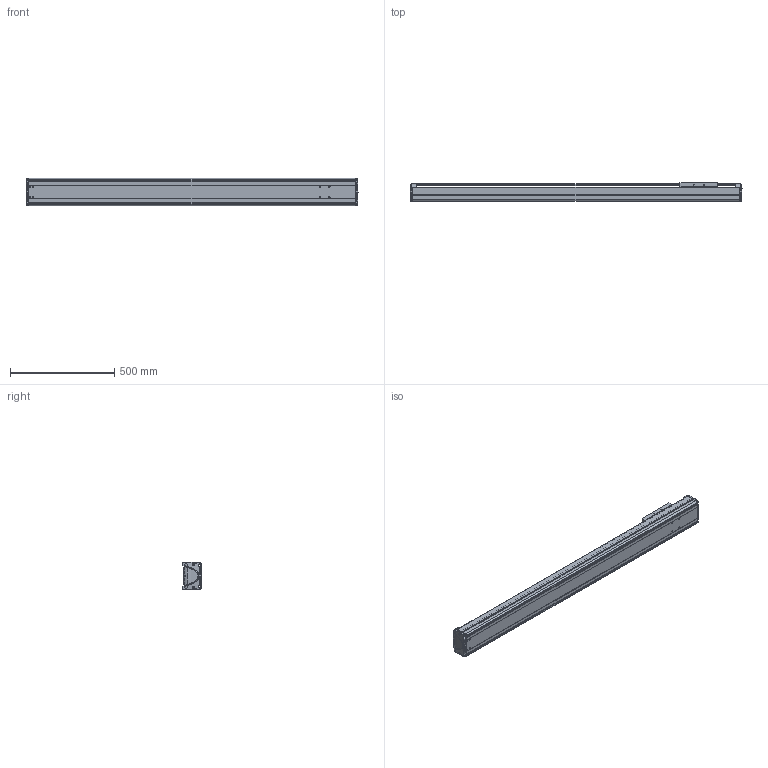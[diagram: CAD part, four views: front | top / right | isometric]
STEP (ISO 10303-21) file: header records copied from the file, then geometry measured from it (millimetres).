
FILE_DESCRIPTION((''),'2;1');
FILE_NAME('BE30E-ST-L_N-C5_IGS_PRT','2017-06-17T',(' '),(''),'PRO/ENGINEER BY PARAMETRIC TECHNOLOGY CORPORATION, 2015030','PRO/ENGINEER BY PARAMETRIC TECHNOLOGY CORPORATION, 2015030','');
FILE_SCHEMA(('CONFIG_CONTROL_DESIGN'));
Length unit declared in the file: millimetre
Products named in the file (1): BE30E-ST-L_N-C5_IGS_PRT
Bounding box: 1590 x 89.8 x 130 mm (x, y, z)
Volume: 4857106.7 mm3; surface area: 1888404.7 mm2
Topology: 3 solids, 104 shells, 1452 faces, 3936 edges, 2579 vertices
Faces by surface type: cylinder 691, plane 610, bspline 55, torus 42, cone 30, sphere 24
Entity records: 49057 total; most frequent: CARTESIAN_POINT 12275, DIRECTION 7603, ORIENTED_EDGE 7430, EDGE_CURVE 3916, AXIS2_PLACEMENT_3D 2778, VERTEX_POINT 2579, VECTOR 2047, LINE 2047
